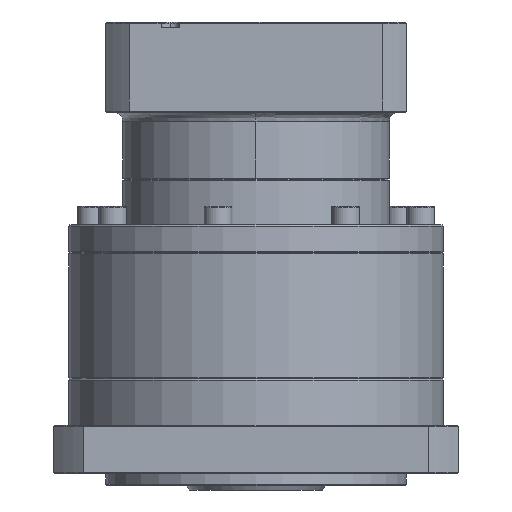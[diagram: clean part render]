
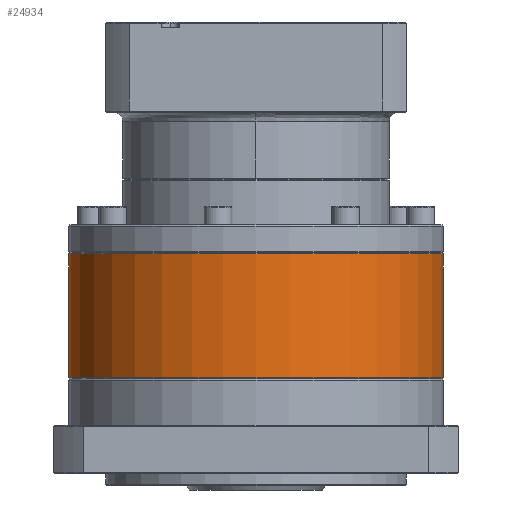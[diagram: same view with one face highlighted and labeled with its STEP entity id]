
A CAD part, front view. The second image highlights one B-rep face of the part: STEP entity #24934.
In plain terms, the highlighted cylindrical face has radius 81 mm (diameter 162 mm), a partial arc.
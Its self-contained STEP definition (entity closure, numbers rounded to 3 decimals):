
#2485 = VERTEX_POINT ( 'NONE', #5264 ) ;
#4282 = CARTESIAN_POINT ( 'NONE',  ( -209.718, 114.142, -98.792 ) ) ;
#5264 = CARTESIAN_POINT ( 'NONE',  ( -209.718, 114.142, -99.292 ) ) ;
#8196 = CARTESIAN_POINT ( 'NONE',  ( -128.718, 114.142, -152.792 ) ) ;
#13454 = VECTOR ( 'NONE', #67790, 1000. ) ;
#14360 = VECTOR ( 'NONE', #133349, 1000. ) ;
#15872 = ORIENTED_EDGE ( 'NONE', *, *, #66492, .F. ) ;
#17334 = EDGE_CURVE ( 'NONE', #107805, #114036, #126922, .T. ) ;
#21641 = DIRECTION ( 'NONE',  ( -1., 0., 0. ) ) ;
#22554 = CARTESIAN_POINT ( 'NONE',  ( -209.718, 114.142, -152.792 ) ) ;
#24244 = DIRECTION ( 'NONE',  ( 0., 0., -1. ) ) ;
#24934 = ADVANCED_FACE ( 'NONE', ( #66868 ), #34705, .T. ) ;
#34569 = CARTESIAN_POINT ( 'NONE',  ( -128.718, 114.142, -99.292 ) ) ;
#34705 = CYLINDRICAL_SURFACE ( 'NONE', #109877, 81. ) ;
#36851 = LINE ( 'NONE', #4282, #13454 ) ;
#37638 = ORIENTED_EDGE ( 'NONE', *, *, #135802, .T. ) ;
#40452 = ORIENTED_EDGE ( 'NONE', *, *, #93572, .T. ) ;
#45436 = CARTESIAN_POINT ( 'NONE',  ( -128.718, 114.142, -98.792 ) ) ;
#45818 = EDGE_CURVE ( 'NONE', #107805, #76901, #106812, .T. ) ;
#66492 = EDGE_CURVE ( 'NONE', #114036, #124960, #100161, .T. ) ;
#66868 = FACE_OUTER_BOUND ( 'NONE', #67086, .T. ) ;
#67086 = EDGE_LOOP ( 'NONE', ( #109487, #125960, #40452, #37638, #15872 ) ) ;
#67790 = DIRECTION ( 'NONE',  ( 0., 0., -1. ) ) ;
#69602 = CARTESIAN_POINT ( 'NONE',  ( -47.718, 114.142, -98.792 ) ) ;
#71230 = DIRECTION ( 'NONE',  ( 0., 0., -1. ) ) ;
#76901 = VERTEX_POINT ( 'NONE', #91315 ) ;
#81183 = AXIS2_PLACEMENT_3D ( 'NONE', #34569, #121987, #121521 ) ;
#91315 = CARTESIAN_POINT ( 'NONE',  ( -128.718, 33.142, -99.292 ) ) ;
#93572 = EDGE_CURVE ( 'NONE', #76901, #2485, #109974, .T. ) ;
#100161 = CIRCLE ( 'NONE', #117067, 81. ) ;
#106812 = CIRCLE ( 'NONE', #126325, 81. ) ;
#107805 = VERTEX_POINT ( 'NONE', #109104 ) ;
#108204 = CARTESIAN_POINT ( 'NONE',  ( -47.718, 114.142, -152.792 ) ) ;
#109104 = CARTESIAN_POINT ( 'NONE',  ( -47.718, 114.142, -99.292 ) ) ;
#109487 = ORIENTED_EDGE ( 'NONE', *, *, #17334, .F. ) ;
#109877 = AXIS2_PLACEMENT_3D ( 'NONE', #45436, #24244, #119224 ) ;
#109974 = CIRCLE ( 'NONE', #81183, 81. ) ;
#114036 = VERTEX_POINT ( 'NONE', #108204 ) ;
#115826 = DIRECTION ( 'NONE',  ( 1., 0., 0. ) ) ;
#116594 = CARTESIAN_POINT ( 'NONE',  ( -128.718, 114.142, -99.292 ) ) ;
#117067 = AXIS2_PLACEMENT_3D ( 'NONE', #8196, #71230, #115826 ) ;
#119224 = DIRECTION ( 'NONE',  ( -1., 0., 0. ) ) ;
#121521 = DIRECTION ( 'NONE',  ( -1., 0., 0. ) ) ;
#121987 = DIRECTION ( 'NONE',  ( 0., 0., -1. ) ) ;
#124960 = VERTEX_POINT ( 'NONE', #22554 ) ;
#125960 = ORIENTED_EDGE ( 'NONE', *, *, #45818, .T. ) ;
#126325 = AXIS2_PLACEMENT_3D ( 'NONE', #116594, #128770, #21641 ) ;
#126922 = LINE ( 'NONE', #69602, #14360 ) ;
#128770 = DIRECTION ( 'NONE',  ( 0., 0., -1. ) ) ;
#133349 = DIRECTION ( 'NONE',  ( 0., 0., -1. ) ) ;
#135802 = EDGE_CURVE ( 'NONE', #2485, #124960, #36851, .T. ) ;
